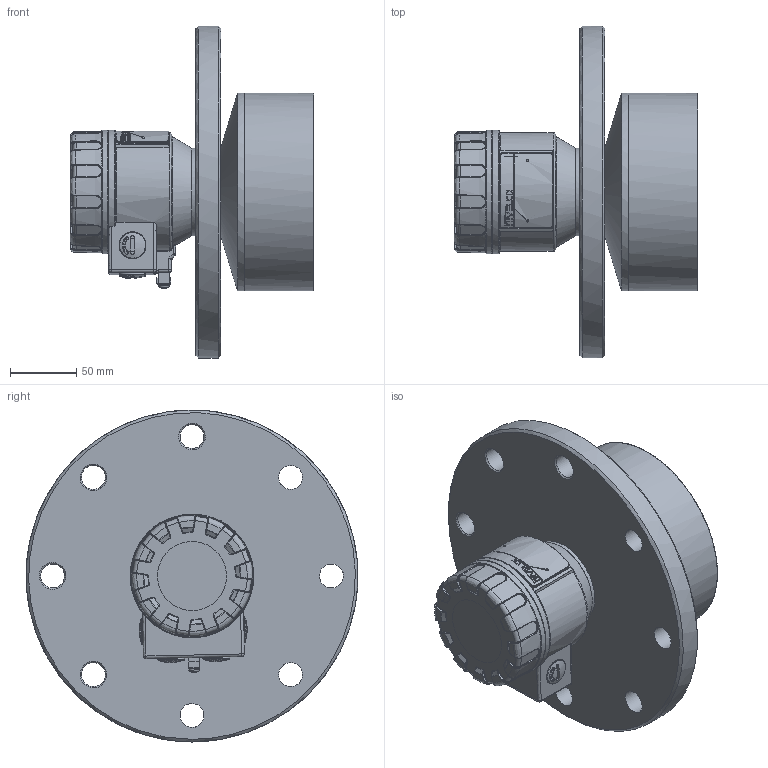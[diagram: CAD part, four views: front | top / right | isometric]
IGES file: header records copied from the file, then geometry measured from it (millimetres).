
Global section: file name: SI_320_Műház,2; native system: 2HAutodesk Inventor 2015; preprocessor: unknown; author: aantal; date: 20150306.113054; units: millimetre
Bounding box: 183.6 x 249.85 x 249.98 mm (x, y, z)
Volume: 2699233.7 mm3; surface area: 291228.6 mm2
Topology: 13 solids, 13 shells, 1266 faces, 3141 edges, 1937 vertices
Faces by surface type: bspline 1266
